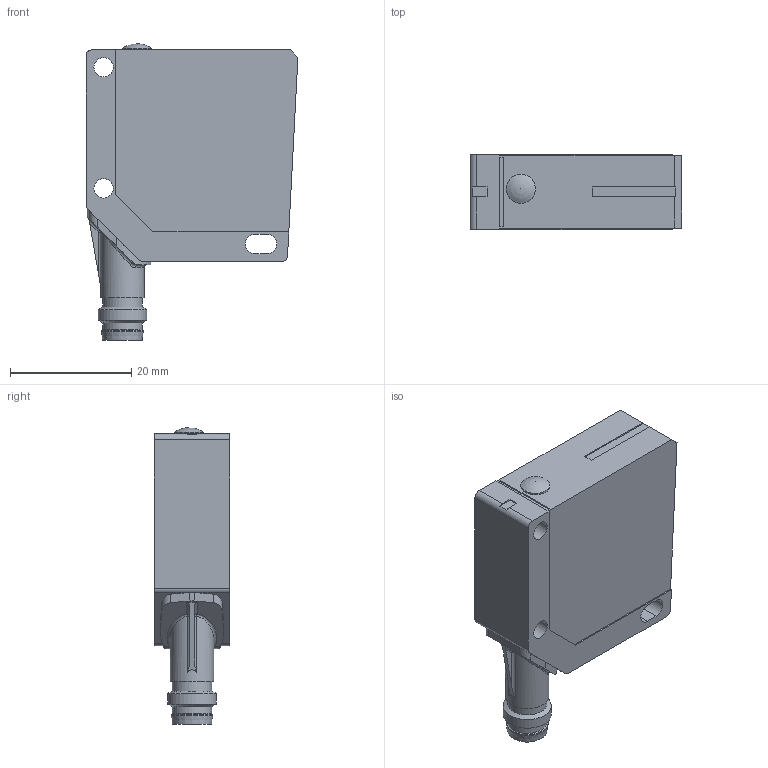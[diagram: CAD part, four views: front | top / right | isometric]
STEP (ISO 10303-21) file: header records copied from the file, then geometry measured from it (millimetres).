
FILE_DESCRIPTION( ( 'Unknown' ), '1' );
FILE_NAME( '//baumerholding.org/frauenfeld/bereich/BECH/Services/me_CAD/Solid Edge/Models/Dokumentationen/Opto/xxDM12/Vereinfachte Modelle/Neutralformate/OPDM_12_LED_S35A.stp', 'Unknown', ( 'Unknown' ), ( 'Unknown' ), 'XStep 1.0', 'Unknown', ' ' );
FILE_SCHEMA( ( 'CONFIG_CONTROL_DESIGN' ) );
Length unit declared in the file: millimetre
Products named in the file (1): 113900
Bounding box: 35 x 12.4 x 49 mm (x, y, z)
Surface area: 4856.4 mm2 (no closed solid volume)
Topology: 0 solids, 100 shells, 100 faces, 499 edges, 477 vertices
Faces by surface type: plane 50, cylinder 34, sphere 7, bspline 4, cone 4, torus 1
Full cylindrical faces by diameter (mm): 1 x4, 3.2 x2, 4.8 x1, 5.77 x1, 6.5 x2, 6.9 x1, 7.2 x1, 8 x1
Entity records: 5248 total; most frequent: CARTESIAN_POINT 1559, DIRECTION 800, ORIENTED_EDGE 460, EDGE_CURVE 460, VERTEX_POINT 460, LINE 282, VECTOR 282, AXIS2_PLACEMENT_3D 259
